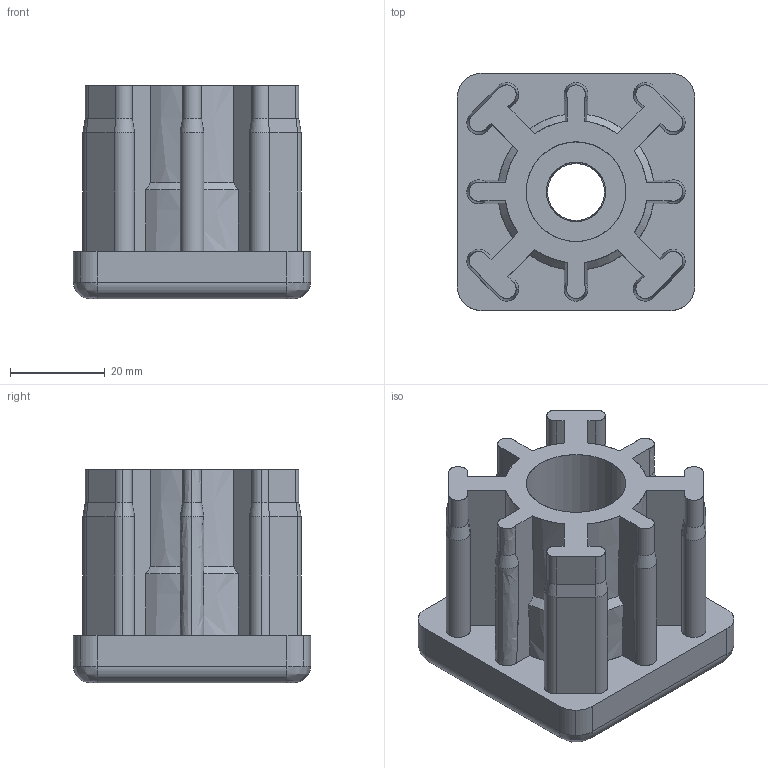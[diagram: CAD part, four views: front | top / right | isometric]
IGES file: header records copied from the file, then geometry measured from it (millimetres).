
Start section: SolidWorks IGES file using analytic representation for surfaces
Global section: file name: Y:\Tecnodin, S.L\Planos Clientes - Documentos\General\PLANOS CLIENTES\3D\-REVISAR-\CONTERAS TECOM\42006850312.IGS; native system: SolidWorks 2018; preprocessor: SolidWorks 2018; author: GerPro; date: 200226.121558; units: millimetre
Bounding box: 50 x 50 x 45 mm (x, y, z)
Surface area: 19891.8 mm2 (no closed solid volume)
Topology: 0 solids, 0 shells, 213 faces, 1808 edges, 1808 vertices
Faces by surface type: revolution 136, bspline 77
